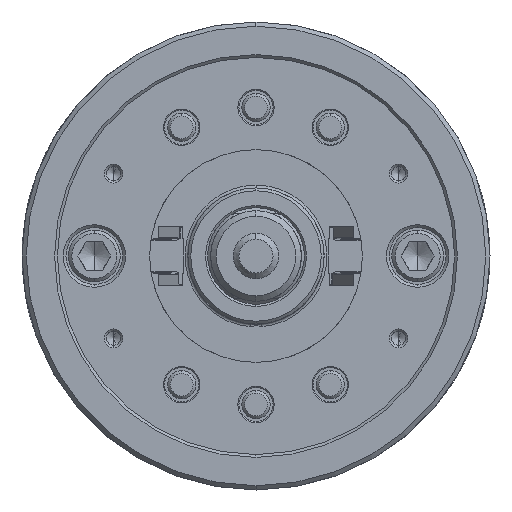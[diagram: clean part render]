
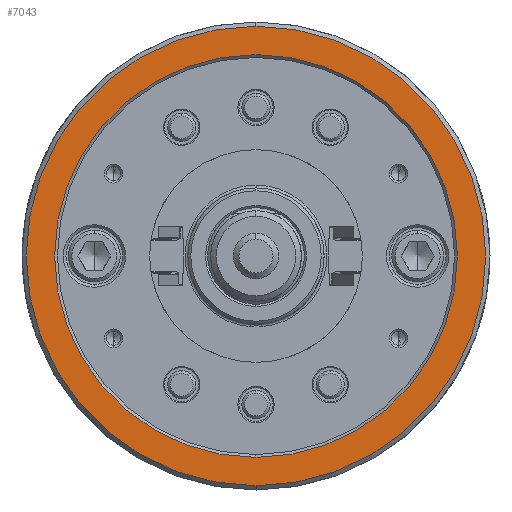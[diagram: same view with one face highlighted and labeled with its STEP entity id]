
A CAD part, left-side view. The second image highlights one B-rep face of the part: STEP entity #7043.
In plain terms, the highlighted planar face has unit normal (-1, 0, 0).
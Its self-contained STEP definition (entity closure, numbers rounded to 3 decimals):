
#2551 = EDGE_CURVE ( 'NONE', #43973, #41750, #50741, .T. ) ;
#4520 = DIRECTION ( 'NONE',  ( 0., 0., -1. ) ) ;
#4733 = CARTESIAN_POINT ( 'NONE',  ( -74., 0., -71. ) ) ;
#6276 = ORIENTED_EDGE ( 'NONE', *, *, #53755, .T. ) ;
#7043 = ADVANCED_FACE ( 'NONE', ( #76492, #43846 ), #17530, .F. ) ;
#9818 = CARTESIAN_POINT ( 'NONE',  ( -74., 0., 71. ) ) ;
#10391 = DIRECTION ( 'NONE',  ( 0., 0., -1. ) ) ;
#12873 = DIRECTION ( 'NONE',  ( 1., 0., 0. ) ) ;
#13583 = CARTESIAN_POINT ( 'NONE',  ( -74., 0., -81. ) ) ;
#15789 = CIRCLE ( 'NONE', #80805, 71. ) ;
#16875 = AXIS2_PLACEMENT_3D ( 'NONE', #28250, #29507, #10391 ) ;
#17530 = PLANE ( 'NONE',  #35847 ) ;
#18365 = CARTESIAN_POINT ( 'NONE',  ( -74., -81., 0. ) ) ;
#19039 = ORIENTED_EDGE ( 'NONE', *, *, #52150, .F. ) ;
#20260 = AXIS2_PLACEMENT_3D ( 'NONE', #40007, #47624, #46798 ) ;
#27584 = ORIENTED_EDGE ( 'NONE', *, *, #35548, .T. ) ;
#28250 = CARTESIAN_POINT ( 'NONE',  ( -74., 0., 0. ) ) ;
#29507 = DIRECTION ( 'NONE',  ( 1., 0., 0. ) ) ;
#30068 = CIRCLE ( 'NONE', #73406, 71. ) ;
#31444 = CARTESIAN_POINT ( 'NONE',  ( -74., 0., 81. ) ) ;
#32003 = CARTESIAN_POINT ( 'NONE',  ( -74., 0., 0. ) ) ;
#35205 = CIRCLE ( 'NONE', #20260, 81. ) ;
#35548 = EDGE_CURVE ( 'NONE', #66020, #64933, #30068, .T. ) ;
#35847 = AXIS2_PLACEMENT_3D ( 'NONE', #18365, #83660, #62949 ) ;
#36710 = EDGE_LOOP ( 'NONE', ( #55101, #19039 ) ) ;
#36801 = CARTESIAN_POINT ( 'NONE',  ( -74., 0., 0. ) ) ;
#40007 = CARTESIAN_POINT ( 'NONE',  ( -74., 0., 0. ) ) ;
#41750 = VERTEX_POINT ( 'NONE', #31444 ) ;
#43846 = FACE_BOUND ( 'NONE', #75234, .T. ) ;
#43973 = VERTEX_POINT ( 'NONE', #13583 ) ;
#46798 = DIRECTION ( 'NONE',  ( 0., 0., -1. ) ) ;
#47624 = DIRECTION ( 'NONE',  ( 1., 0., 0. ) ) ;
#50741 = CIRCLE ( 'NONE', #16875, 81. ) ;
#52150 = EDGE_CURVE ( 'NONE', #41750, #43973, #35205, .T. ) ;
#53755 = EDGE_CURVE ( 'NONE', #64933, #66020, #15789, .T. ) ;
#55101 = ORIENTED_EDGE ( 'NONE', *, *, #2551, .F. ) ;
#62680 = DIRECTION ( 'NONE',  ( 1., 0., 0. ) ) ;
#62949 = DIRECTION ( 'NONE',  ( 0., 0., -1. ) ) ;
#63400 = DIRECTION ( 'NONE',  ( 0., 0., -1. ) ) ;
#64933 = VERTEX_POINT ( 'NONE', #9818 ) ;
#66020 = VERTEX_POINT ( 'NONE', #4733 ) ;
#73406 = AXIS2_PLACEMENT_3D ( 'NONE', #32003, #12873, #63400 ) ;
#75234 = EDGE_LOOP ( 'NONE', ( #6276, #27584 ) ) ;
#76492 = FACE_OUTER_BOUND ( 'NONE', #36710, .T. ) ;
#80805 = AXIS2_PLACEMENT_3D ( 'NONE', #36801, #62680, #4520 ) ;
#83660 = DIRECTION ( 'NONE',  ( 1., 0., 0. ) ) ;
